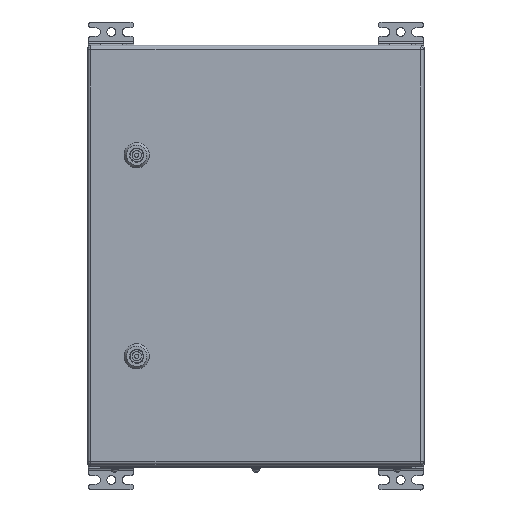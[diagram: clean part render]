
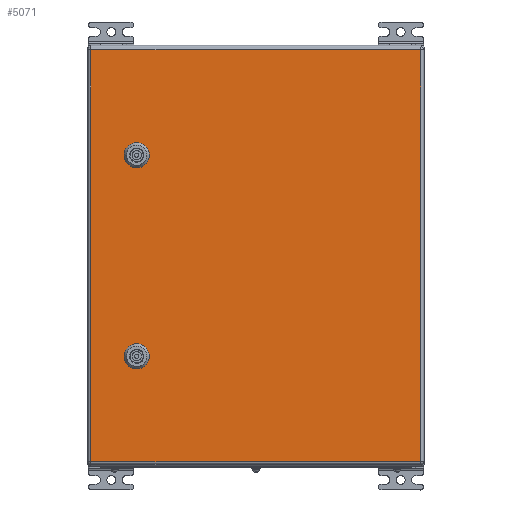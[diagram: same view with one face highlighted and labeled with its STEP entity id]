
A CAD part, top view. The second image highlights one B-rep face of the part: STEP entity #5071.
In plain terms, the highlighted planar face has unit normal (0, 0, 1).
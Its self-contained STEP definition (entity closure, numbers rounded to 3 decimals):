
#5071=ADVANCED_FACE('',(#12701,#12703,#12705),#12707,.T.);
#12701=FACE_BOUND('',#12702,.T.);
#12702=EDGE_LOOP('',(#34344,#34345,#34346,#34347));
#12703=FACE_BOUND('',#12704,.T.);
#12704=EDGE_LOOP('',(#34348,#34349,#34350,#34351,#34352,#34353,#34354,#34355));
#12705=FACE_BOUND('',#12706,.T.);
#12706=EDGE_LOOP('',(#34356,#34357,#34358,#34359,#34360,#34361,#34362,#34363));
#12707=PLANE('',#12708);
#12708=AXIS2_PLACEMENT_3D('',#12709,#12710,#12711);
#12709=CARTESIAN_POINT('',(0.,0.,1.5));
#12710=DIRECTION('',(0.,0.,1.));
#12711=DIRECTION('',(1.,0.,0.));
#34344=ORIENTED_EDGE('',*,*,#38186,.T.);
#34345=ORIENTED_EDGE('',*,*,#38187,.T.);
#34346=ORIENTED_EDGE('',*,*,#38119,.T.);
#34347=ORIENTED_EDGE('',*,*,#38188,.T.);
#34348=ORIENTED_EDGE('',*,*,#38189,.T.);
#34349=ORIENTED_EDGE('',*,*,#38190,.T.);
#34350=ORIENTED_EDGE('',*,*,#38191,.T.);
#34351=ORIENTED_EDGE('',*,*,#38192,.T.);
#34352=ORIENTED_EDGE('',*,*,#38193,.T.);
#34353=ORIENTED_EDGE('',*,*,#38194,.T.);
#34354=ORIENTED_EDGE('',*,*,#38195,.T.);
#34355=ORIENTED_EDGE('',*,*,#38196,.T.);
#34356=ORIENTED_EDGE('',*,*,#38197,.T.);
#34357=ORIENTED_EDGE('',*,*,#38198,.T.);
#34358=ORIENTED_EDGE('',*,*,#38199,.T.);
#34359=ORIENTED_EDGE('',*,*,#38200,.T.);
#34360=ORIENTED_EDGE('',*,*,#38201,.T.);
#34361=ORIENTED_EDGE('',*,*,#38202,.T.);
#34362=ORIENTED_EDGE('',*,*,#38203,.T.);
#34363=ORIENTED_EDGE('',*,*,#38204,.T.);
#38119=EDGE_CURVE('',#41322,#41320,#41323,.T.);
#38186=EDGE_CURVE('',#41439,#41440,#41441,.T.);
#38187=EDGE_CURVE('',#41440,#41322,#41442,.T.);
#38188=EDGE_CURVE('',#41320,#41439,#41443,.T.);
#38189=EDGE_CURVE('',#41444,#41445,#41446,.T.);
#38190=EDGE_CURVE('',#41445,#41447,#41448,.F.);
#38191=EDGE_CURVE('',#41447,#41449,#41450,.T.);
#38192=EDGE_CURVE('',#41449,#41451,#41452,.F.);
#38193=EDGE_CURVE('',#41451,#41453,#41454,.T.);
#38194=EDGE_CURVE('',#41453,#41455,#41456,.F.);
#38195=EDGE_CURVE('',#41455,#41457,#41458,.T.);
#38196=EDGE_CURVE('',#41457,#41444,#41459,.F.);
#38197=EDGE_CURVE('',#41460,#41461,#41462,.T.);
#38198=EDGE_CURVE('',#41461,#41463,#41464,.F.);
#38199=EDGE_CURVE('',#41463,#41465,#41466,.T.);
#38200=EDGE_CURVE('',#41465,#41467,#41468,.F.);
#38201=EDGE_CURVE('',#41467,#41469,#41470,.T.);
#38202=EDGE_CURVE('',#41469,#41471,#41472,.F.);
#38203=EDGE_CURVE('',#41471,#41473,#41474,.T.);
#38204=EDGE_CURVE('',#41473,#41460,#41475,.F.);
#41320=VERTEX_POINT('',#50116);
#41322=VERTEX_POINT('',#50121);
#41323=LINE('',#50122,#50123);
#41439=VERTEX_POINT('',#50395);
#41440=VERTEX_POINT('',#50396);
#41441=LINE('',#50397,#50398);
#41442=LINE('',#50400,#50401);
#41443=LINE('',#50403,#50404);
#41444=VERTEX_POINT('',#50406);
#41445=VERTEX_POINT('',#50407);
#41446=CIRCLE('',#50408,11.25);
#41447=VERTEX_POINT('',#50412);
#41448=LINE('',#50413,#50414);
#41449=VERTEX_POINT('',#50416);
#41450=CIRCLE('',#50417,11.25);
#41451=VERTEX_POINT('',#50421);
#41452=LINE('',#50422,#50423);
#41453=VERTEX_POINT('',#50425);
#41454=CIRCLE('',#50426,11.25);
#41455=VERTEX_POINT('',#50430);
#41456=LINE('',#50431,#50432);
#41457=VERTEX_POINT('',#50434);
#41458=CIRCLE('',#50435,11.25);
#41459=LINE('',#50439,#50440);
#41460=VERTEX_POINT('',#50442);
#41461=VERTEX_POINT('',#50443);
#41462=CIRCLE('',#50444,11.25);
#41463=VERTEX_POINT('',#50448);
#41464=LINE('',#50449,#50450);
#41465=VERTEX_POINT('',#50452);
#41466=CIRCLE('',#50453,11.25);
#41467=VERTEX_POINT('',#50457);
#41468=LINE('',#50458,#50459);
#41469=VERTEX_POINT('',#50461);
#41470=CIRCLE('',#50462,11.25);
#41471=VERTEX_POINT('',#50466);
#41472=LINE('',#50467,#50468);
#41473=VERTEX_POINT('',#50470);
#41474=CIRCLE('',#50471,11.25);
#41475=LINE('',#50475,#50476);
#50116=CARTESIAN_POINT('',(0.,0.,1.5));
#50121=CARTESIAN_POINT('',(0.,-392.,1.5));
#50122=CARTESIAN_POINT('',(0.,-392.,1.5));
#50123=VECTOR('',#50124,1.);
#50124=DIRECTION('',(0.,1.,0.));
#50395=CARTESIAN_POINT('',(-489.,0.,1.5));
#50396=CARTESIAN_POINT('',(-489.,-392.,1.5));
#50397=CARTESIAN_POINT('',(-489.,0.,1.5));
#50398=VECTOR('',#50399,1.);
#50399=DIRECTION('',(0.,-1.,0.));
#50400=CARTESIAN_POINT('',(-489.,-392.,1.5));
#50401=VECTOR('',#50402,1.);
#50402=DIRECTION('',(1.,0.,0.));
#50403=CARTESIAN_POINT('',(0.,0.,1.5));
#50404=VECTOR('',#50405,1.);
#50405=DIRECTION('',(-1.,0.,0.));
#50406=CARTESIAN_POINT('',(-135.1,-49.545,1.5));
#50407=CARTESIAN_POINT('',(-129.955,-44.4,1.5));
#50408=AXIS2_PLACEMENT_3D('',#50409,#50410,#50411);
#50409=CARTESIAN_POINT('',(-125.,-54.5,1.5));
#50410=DIRECTION('',(0.,0.,-1.));
#50411=DIRECTION('',(-0.898,0.44,0.));
#50412=CARTESIAN_POINT('',(-120.045,-44.4,1.5));
#50413=CARTESIAN_POINT('',(-120.045,-44.4,1.5));
#50414=VECTOR('',#50415,1.);
#50415=DIRECTION('',(-1.,0.,0.));
#50416=CARTESIAN_POINT('',(-114.9,-49.545,1.5));
#50417=AXIS2_PLACEMENT_3D('',#50418,#50419,#50420);
#50418=CARTESIAN_POINT('',(-125.,-54.5,1.5));
#50419=DIRECTION('',(0.,0.,-1.));
#50420=DIRECTION('',(0.44,0.898,0.));
#50421=CARTESIAN_POINT('',(-114.9,-59.455,1.5));
#50422=CARTESIAN_POINT('',(-114.9,-59.455,1.5));
#50423=VECTOR('',#50424,1.);
#50424=DIRECTION('',(0.,1.,0.));
#50425=CARTESIAN_POINT('',(-120.045,-64.6,1.5));
#50426=AXIS2_PLACEMENT_3D('',#50427,#50428,#50429);
#50427=CARTESIAN_POINT('',(-125.,-54.5,1.5));
#50428=DIRECTION('',(0.,0.,-1.));
#50429=DIRECTION('',(0.898,-0.44,0.));
#50430=CARTESIAN_POINT('',(-129.955,-64.6,1.5));
#50431=CARTESIAN_POINT('',(-129.955,-64.6,1.5));
#50432=VECTOR('',#50433,1.);
#50433=DIRECTION('',(1.,0.,0.));
#50434=CARTESIAN_POINT('',(-135.1,-59.455,1.5));
#50435=AXIS2_PLACEMENT_3D('',#50436,#50437,#50438);
#50436=CARTESIAN_POINT('',(-125.,-54.5,1.5));
#50437=DIRECTION('',(0.,0.,-1.));
#50438=DIRECTION('',(-0.44,-0.898,0.));
#50439=CARTESIAN_POINT('',(-135.1,-49.545,1.5));
#50440=VECTOR('',#50441,1.);
#50441=DIRECTION('',(0.,-1.,0.));
#50442=CARTESIAN_POINT('',(-374.1,-49.545,1.5));
#50443=CARTESIAN_POINT('',(-368.955,-44.4,1.5));
#50444=AXIS2_PLACEMENT_3D('',#50445,#50446,#50447);
#50445=CARTESIAN_POINT('',(-364.,-54.5,1.5));
#50446=DIRECTION('',(0.,0.,-1.));
#50447=DIRECTION('',(-0.898,0.44,0.));
#50448=CARTESIAN_POINT('',(-359.045,-44.4,1.5));
#50449=CARTESIAN_POINT('',(-359.045,-44.4,1.5));
#50450=VECTOR('',#50451,1.);
#50451=DIRECTION('',(-1.,0.,0.));
#50452=CARTESIAN_POINT('',(-353.9,-49.545,1.5));
#50453=AXIS2_PLACEMENT_3D('',#50454,#50455,#50456);
#50454=CARTESIAN_POINT('',(-364.,-54.5,1.5));
#50455=DIRECTION('',(0.,0.,-1.));
#50456=DIRECTION('',(0.44,0.898,0.));
#50457=CARTESIAN_POINT('',(-353.9,-59.455,1.5));
#50458=CARTESIAN_POINT('',(-353.9,-59.455,1.5));
#50459=VECTOR('',#50460,1.);
#50460=DIRECTION('',(0.,1.,0.));
#50461=CARTESIAN_POINT('',(-359.045,-64.6,1.5));
#50462=AXIS2_PLACEMENT_3D('',#50463,#50464,#50465);
#50463=CARTESIAN_POINT('',(-364.,-54.5,1.5));
#50464=DIRECTION('',(0.,0.,-1.));
#50465=DIRECTION('',(0.898,-0.44,0.));
#50466=CARTESIAN_POINT('',(-368.955,-64.6,1.5));
#50467=CARTESIAN_POINT('',(-368.955,-64.6,1.5));
#50468=VECTOR('',#50469,1.);
#50469=DIRECTION('',(1.,0.,0.));
#50470=CARTESIAN_POINT('',(-374.1,-59.455,1.5));
#50471=AXIS2_PLACEMENT_3D('',#50472,#50473,#50474);
#50472=CARTESIAN_POINT('',(-364.,-54.5,1.5));
#50473=DIRECTION('',(0.,0.,-1.));
#50474=DIRECTION('',(-0.44,-0.898,0.));
#50475=CARTESIAN_POINT('',(-374.1,-49.545,1.5));
#50476=VECTOR('',#50477,1.);
#50477=DIRECTION('',(0.,-1.,0.));
